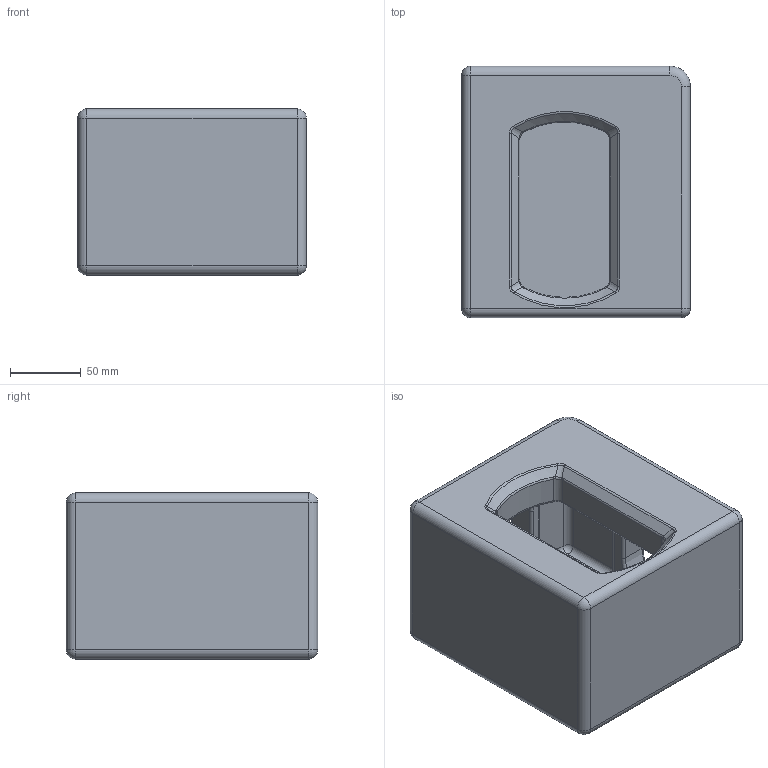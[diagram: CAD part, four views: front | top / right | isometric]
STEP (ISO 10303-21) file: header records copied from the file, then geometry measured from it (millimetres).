
FILE_DESCRIPTION(/* description */ (''),/* implementation_level */ '2;1');
FILE_NAME(/* name */ 'O:\ils2000\Natallia\INVENTOR\AutoCAD stp\NAVACQS\CO-TL.stp',/* time_stamp */ '2018-02-14T16:58:38+01:00',/* author */ ('jori'),/* organization */ (''),/* preprocessor_version */ 'ST-DEVELOPER v16.5',/* originating_system */ 'Autodesk Inventor 2017',/* authorisation */ '');
FILE_SCHEMA (('AUTOMOTIVE_DESIGN { 1 0 10303 214 3 1 1 }'));
Length unit declared in the file: millimetre
Products named in the file (1): CO-TL
Bounding box: 161.9 x 177.8 x 117.5 mm (x, y, z)
Volume: 1367302.3 mm3; surface area: 203319 mm2
Topology: 1 solids, 1 shells, 190 faces, 429 edges, 232 vertices
Faces by surface type: cylinder 65, bspline 45, torus 33, plane 26, sphere 18, cone 3
Entity records: 6386 total; most frequent: CARTESIAN_POINT 2265, DIRECTION 893, ORIENTED_EDGE 842, EDGE_CURVE 421, AXIS2_PLACEMENT_3D 384, VERTEX_POINT 232, CIRCLE 218, EDGE_LOOP 193
